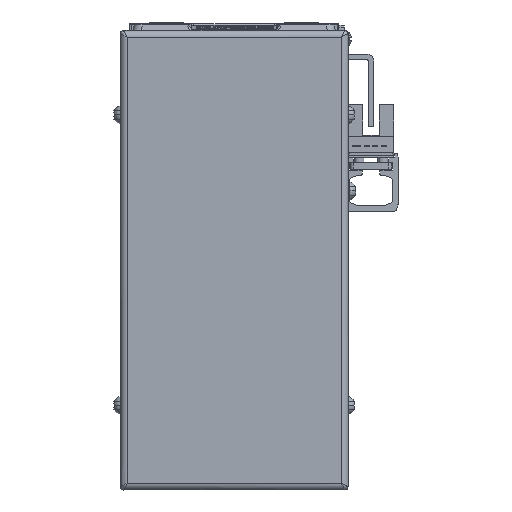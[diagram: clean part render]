
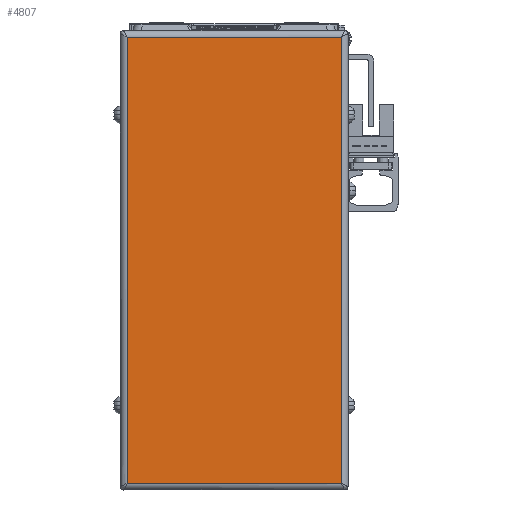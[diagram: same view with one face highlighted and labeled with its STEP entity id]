
A CAD part, left-side view. The second image highlights one B-rep face of the part: STEP entity #4807.
In plain terms, the highlighted planar face has unit normal (-1, 0, 0) as drawn and (0, 0, 1) by its records, which use the part's own axes.
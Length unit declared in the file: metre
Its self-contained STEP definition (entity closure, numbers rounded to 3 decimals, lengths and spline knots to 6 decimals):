
#4807=ADVANCED_FACE('',(#10156),#10157,.T.);
#10156=FACE_OUTER_BOUND('',#17346,.T.);
#10157=PLANE('',#17347);
#17346=EDGE_LOOP('',(#31116,#31117,#31118,#31119));
#17347=AXIS2_PLACEMENT_3D('',#31120,#31121,#31122);
#31116=ORIENTED_EDGE('',*,*,#44303,.F.);
#31117=ORIENTED_EDGE('',*,*,#44848,.F.);
#31118=ORIENTED_EDGE('',*,*,#42278,.F.);
#31119=ORIENTED_EDGE('',*,*,#45053,.F.);
#31120=CARTESIAN_POINT('',(-0.054,-0.014256,0.033889));
#31121=DIRECTION('',(0.0,0.0,1.0));
#31122=DIRECTION('',(1.0,0.0,0.0));
#42278=EDGE_CURVE('',#49554,#49557,#49558,.T.);
#44303=EDGE_CURVE('',#52835,#52837,#52838,.T.);
#44848=EDGE_CURVE('',#49557,#52835,#53690,.T.);
#45053=EDGE_CURVE('',#52837,#49554,#54001,.T.);
#49554=VERTEX_POINT('',#60008);
#49557=VERTEX_POINT('',#60020);
#49558=LINE('',#60021,#60022);
#52835=VERTEX_POINT('',#65016);
#52837=VERTEX_POINT('',#65027);
#52838=LINE('',#65028,#65029);
#53690=LINE('',#66276,#66277);
#54001=LINE('',#66738,#66739);
#60008=CARTESIAN_POINT('',(-0.12,-0.045956,0.033889));
#60020=CARTESIAN_POINT('',(-0.12,0.017444,0.033889));
#60021=CARTESIAN_POINT('',(-0.12,-0.014256,0.033889));
#60022=VECTOR('',#73239,1.0);
#65016=CARTESIAN_POINT('',(0.012,0.017444,0.033889));
#65027=CARTESIAN_POINT('',(0.012,-0.045956,0.033889));
#65028=CARTESIAN_POINT('',(0.012,-0.014256,0.033889));
#65029=VECTOR('',#75640,1.0);
#66276=CARTESIAN_POINT('',(-0.054,0.017444,0.033889));
#66277=VECTOR('',#76301,1.0);
#66738=CARTESIAN_POINT('',(-0.054,-0.045956,0.033889));
#66739=VECTOR('',#76544,1.0);
#73239=DIRECTION('',(0.0,1.0,0.0));
#75640=DIRECTION('',(0.0,-1.0,0.0));
#76301=DIRECTION('',(1.0,0.0,0.0));
#76544=DIRECTION('',(-1.0,0.0,0.0));
